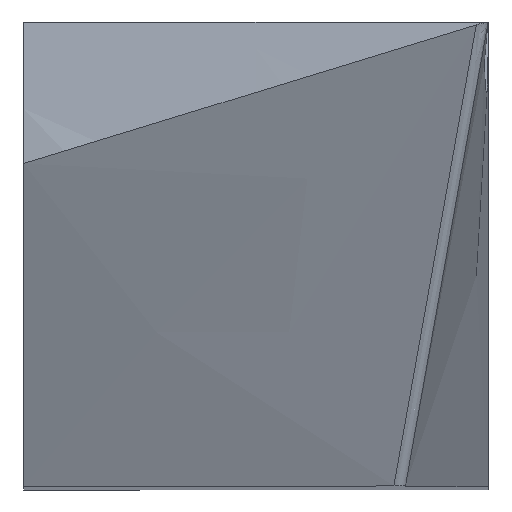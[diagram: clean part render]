
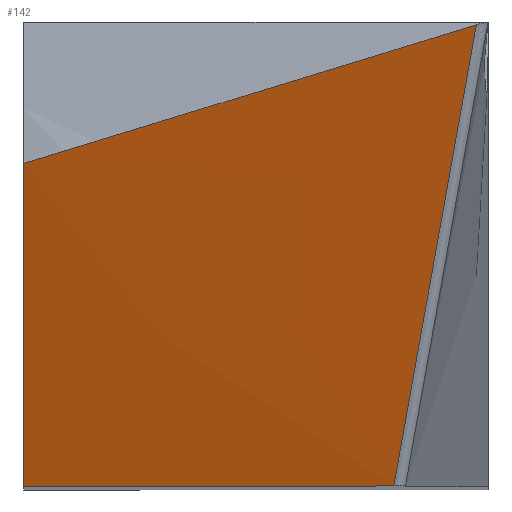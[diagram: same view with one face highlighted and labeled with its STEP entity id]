
A CAD part, top view. The second image highlights one B-rep face of the part: STEP entity #142.
In plain terms, the highlighted free-form (B-spline) face has degree [3, 3] with [4, 4] control points.
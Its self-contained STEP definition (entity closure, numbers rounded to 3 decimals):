
#19 = CARTESIAN_POINT ( 'NONE',  ( 10.986, 4.167, 62.922 ) ) ;
#22 = CARTESIAN_POINT ( 'NONE',  ( 7.957, -12.5, 58.767 ) ) ;
#29 = CARTESIAN_POINT ( 'NONE',  ( 11.859, 12.305, 64.803 ) ) ;
#31 = VECTOR ( 'NONE', #315, 1000. ) ;
#41 = DIRECTION ( 'NONE',  ( 0.958, 0., 0.286 ) ) ;
#50 = CARTESIAN_POINT ( 'NONE',  ( -12.5, 4.854, 56.99 ) ) ;
#54 = B_SPLINE_SURFACE_WITH_KNOTS ( 'NONE', 3, 3, ( 
 ( #381, #80, #266, #55 ),
 ( #58, #330, #209, #19 ),
 ( #267, #91, #265, #89 ),
 ( #212, #296, #116, #22 ) ),
 .UNSPECIFIED., .F., .F., .F.,
 ( 4, 4 ),
 ( 4, 4 ),
 ( 0., 1. ),
 ( 0., 1. ),
 .UNSPECIFIED. ) ;
#55 = CARTESIAN_POINT ( 'NONE',  ( 12.5, 12.5, 65. ) ) ;
#58 = CARTESIAN_POINT ( 'NONE',  ( -12.5, 4.167, 56.819 ) ) ;
#62 = CARTESIAN_POINT ( 'NONE',  ( 11.136, 8.246, 63.79 ) ) ;
#74 = ORIENTED_EDGE ( 'NONE', *, *, #113, .T. ) ;
#75 = VECTOR ( 'NONE', #41, 1000. ) ;
#80 = CARTESIAN_POINT ( 'NONE',  ( -4.167, 12.5, 60.931 ) ) ;
#89 = CARTESIAN_POINT ( 'NONE',  ( 9.471, -4.167, 60.845 ) ) ;
#91 = CARTESIAN_POINT ( 'NONE',  ( -5.176, -4.167, 56.775 ) ) ;
#113 = EDGE_CURVE ( 'NONE', #263, #241, #366, .T. ) ;
#116 = CARTESIAN_POINT ( 'NONE',  ( 1.138, -12.5, 56.732 ) ) ;
#122 = B_SPLINE_CURVE_WITH_KNOTS ( 'NONE', 3,
 ( #326, #179, #383, #327 ),
 .UNSPECIFIED., .F., .F.,
 ( 4, 4 ),
 ( 0.001, 0.027 ),
 .UNSPECIFIED. ) ;
#142 = ADVANCED_FACE ( 'NONE', ( #162 ), #54, .T. ) ;
#153 = CARTESIAN_POINT ( 'NONE',  ( 7.421, -12.5, 58.607 ) ) ;
#158 = CARTESIAN_POINT ( 'NONE',  ( 8.932, -4.082, 60.712 ) ) ;
#160 = EDGE_CURVE ( 'NONE', #204, #263, #122, .T. ) ;
#162 = FACE_OUTER_BOUND ( 'NONE', #314, .T. ) ;
#179 = CARTESIAN_POINT ( 'NONE',  ( 3.704, 9.831, 62.3 ) ) ;
#182 = CARTESIAN_POINT ( 'NONE',  ( 8.177, -8.291, 59.66 ) ) ;
#185 = CARTESIAN_POINT ( 'NONE',  ( 9.685, 0.128, 61.763 ) ) ;
#193 = B_SPLINE_CURVE_WITH_KNOTS ( 'NONE', 3,
 ( #362, #182, #158, #185, #216, #62, #29 ),
 .UNSPECIFIED., .F., .F.,
 ( 4, 3, 4 ),
 ( 0., 0.013, 0.026 ),
 .UNSPECIFIED. ) ;
#203 = CARTESIAN_POINT ( 'NONE',  ( -12.5, 0., 55.78 ) ) ;
#204 = VERTEX_POINT ( 'NONE', #262 ) ;
#209 = CARTESIAN_POINT ( 'NONE',  ( 3.157, 4.167, 60.888 ) ) ;
#212 = CARTESIAN_POINT ( 'NONE',  ( -12.5, -12.5, 52.663 ) ) ;
#216 = CARTESIAN_POINT ( 'NONE',  ( 10.411, 4.187, 62.777 ) ) ;
#222 = EDGE_CURVE ( 'NONE', #360, #204, #193, .T. ) ;
#241 = VERTEX_POINT ( 'NONE', #299 ) ;
#262 = CARTESIAN_POINT ( 'NONE',  ( 11.859, 12.305, 64.803 ) ) ;
#263 = VERTEX_POINT ( 'NONE', #50 ) ;
#265 = CARTESIAN_POINT ( 'NONE',  ( 2.148, -4.167, 58.81 ) ) ;
#266 = CARTESIAN_POINT ( 'NONE',  ( 4.167, 12.5, 62.965 ) ) ;
#267 = CARTESIAN_POINT ( 'NONE',  ( -12.5, -4.167, 54.741 ) ) ;
#296 = CARTESIAN_POINT ( 'NONE',  ( -5.681, -12.5, 54.698 ) ) ;
#299 = CARTESIAN_POINT ( 'NONE',  ( -12.5, -12.5, 52.663 ) ) ;
#300 = ORIENTED_EDGE ( 'NONE', *, *, #390, .T. ) ;
#314 = EDGE_LOOP ( 'NONE', ( #300, #361, #382, #74 ) ) ;
#315 = DIRECTION ( 'NONE',  ( 0., -0.97, -0.242 ) ) ;
#316 = LINE ( 'NONE', #392, #75 ) ;
#326 = CARTESIAN_POINT ( 'NONE',  ( 11.859, 12.305, 64.803 ) ) ;
#327 = CARTESIAN_POINT ( 'NONE',  ( -12.5, 4.854, 56.99 ) ) ;
#330 = CARTESIAN_POINT ( 'NONE',  ( -4.671, 4.167, 58.853 ) ) ;
#360 = VERTEX_POINT ( 'NONE', #153 ) ;
#361 = ORIENTED_EDGE ( 'NONE', *, *, #222, .T. ) ;
#362 = CARTESIAN_POINT ( 'NONE',  ( 7.421, -12.5, 58.607 ) ) ;
#366 = LINE ( 'NONE', #203, #31 ) ;
#381 = CARTESIAN_POINT ( 'NONE',  ( -12.5, 12.5, 58.896 ) ) ;
#382 = ORIENTED_EDGE ( 'NONE', *, *, #160, .T. ) ;
#383 = CARTESIAN_POINT ( 'NONE',  ( -4.418, 7.348, 59.701 ) ) ;
#390 = EDGE_CURVE ( 'NONE', #241, #360, #316, .T. ) ;
#392 = CARTESIAN_POINT ( 'NONE',  ( -2.272, -12.5, 55.715 ) ) ;
